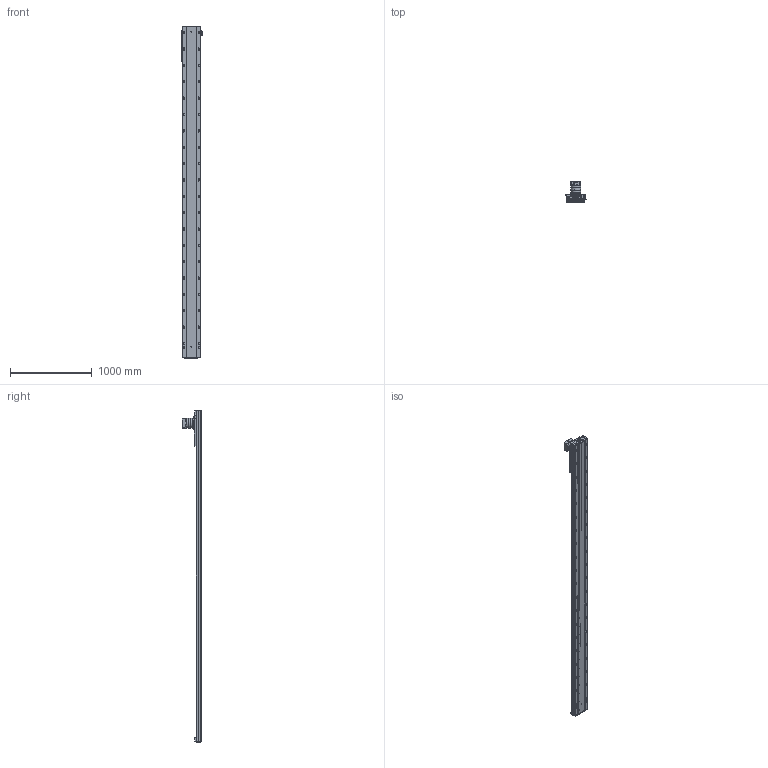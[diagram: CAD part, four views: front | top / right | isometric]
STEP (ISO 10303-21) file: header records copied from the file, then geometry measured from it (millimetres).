
FILE_DESCRIPTION (( 'STEP AP203' ), '1' );
FILE_NAME ('RY220-C-300-UK.SLDASM_3550.step', '2022-08-01T06:01:10', ( '' ), ( '' ), 'SwSTEP 2.0', 'SolidWorks 2016', '' );
FILE_SCHEMA (( 'CONFIG_CONTROL_DESIGN' ));
Length unit declared in the file: millimetre
Products named in the file (10): RY140直线电机感应器674光电安装座; PF115L1-S2-22-58-110-145-M8; 滅袉蝶輸ㄗG412隅秶ㄘ; RY220喘沭賑輸; RY220喘沭俋离覜茼え; RY220-C-300-UK.SLDASM_3550; 覜茼ん674; RY220喘沭綴裔啣; RY220菁釱MK-300_3550; RY220-齿条模组电机安装板
Assembly tree (12 placements, depth 2):
  RY220-C-300-UK.SLDASM_3550
    RY220菁釱MK-300_3550
    RY220喘沭賑輸
    RY220-齿条模组电机安装板
    PF115L1-S2-22-58-110-145-M8
    RY220喘沭綴裔啣  x2
    滅袉蝶輸ㄗG412隅秶ㄘ  x2
    RY140直线电机感应器674光电安装座
    覜茼ん674  x2
    RY220喘沭俋离覜茼え
Bounding box: 247 x 244.5 x 4059 mm (x, y, z)
Volume: 26114507.1 mm3; surface area: 5432828.8 mm2
Topology: 18 solids, 26 shells, 2572 faces, 6953 edges, 4305 vertices
Faces by surface type: cylinder 1289, plane 751, cone 370, bspline 162
Entity records: 82149 total; most frequent: CARTESIAN_POINT 22165, DIRECTION 12487, ORIENTED_EDGE 12066, EDGE_CURVE 6033, AXIS2_PLACEMENT_3D 4815, VERTEX_POINT 3931, EDGE_LOOP 3064, VECTOR 2857
